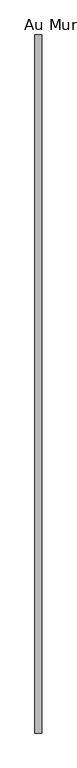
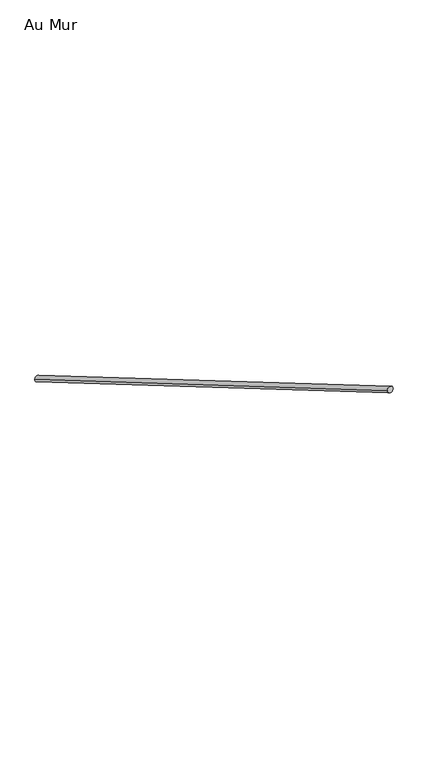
"""IFC4 building model written with IfcOpenShell, lengths in millimetres: railing geometry, Au Mur."""

from ifc_helpers import new_model, si_unit, frame, origin, place, context, project, spatial, ellipse_curve, source, transform, mapped, element, save
from ifc_brep_helpers import plane_surface, cylinder_surface, advanced_brep


def au_mur_0f0e8a53(model_context):
    return source(origin(), model_context, "Body", "AdvancedBrep", [
        advanced_brep(
        [(-17384.4938634, 15816.177026, 3360.3284046), (-17354.4938634, 15816.177026, 3360.3284046), (-17384.4938634, 12736.177026, 5168.8928942), (-17354.4938634, 12736.177026, 5168.8928942)],
        [
            (0, 1, ellipse_curve(frame((-17369.4938634, 15816.177026, 3360.3284046), z_axis=(0.0, 1.0, 0.0), x_axis=(0.0, 0.0, -1.0)), 17.3948233, 15.0)),
            (1, 0, ellipse_curve(frame((-17369.4938634, 15816.177026, 3360.3284046), z_axis=(0.0, 1.0, 0.0), x_axis=(0.0, 0.0, -1.0)), 17.3948233, 15.0)),
            (2, 3, ellipse_curve(frame((-17369.4938634, 12736.177026, 5168.8928942), z_axis=(0.0, -1.0, 0.0), x_axis=(0.0, 0.0, -1.0)), 17.3948233, 15.0)),
            (3, 2, ellipse_curve(frame((-17369.4938634, 12736.177026, 5168.8928942), z_axis=(0.0, -1.0, 0.0), x_axis=(0.0, 0.0, -1.0)), 17.3948233, 15.0)),
            (0, 2),
            (3, 1),
        ],
        [
            plane_surface(frame((-17369.4938634, 15816.177026, 3377.7232278), z_axis=(0.0, 1.0, 0.0), x_axis=(0.0, 0.0, -1.0))),
            plane_surface(frame((-17369.4938634, 12736.177026, 5186.2877175), z_axis=(0.0, -1.0, 0.0), x_axis=(0.0, 0.0, -1.0))),
            cylinder_surface(frame((-17369.4938634, 15808.5817111, 3364.7883451), z_axis=(0.0, 0.8623255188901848, -0.5063543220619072), x_axis=(1.0, 0.0, 0.0)), 15.0),
        ],
        [
            (0, [[1, 2]]),
            (1, [[3, 4]]),
            (2, [[-1, 5, -4, 6]]),
            (2, [[-2, -6, -3, -5]]),
        ],
    ),
    ])


if __name__ == "__main__":
    model = new_model("IFC4")
    model_context = context("Model", 3, world=origin())
    ifc_project = project(units=[si_unit("LENGTHUNIT", "METRE", prefix="MILLI")], contexts=[model_context])
    site = spatial("IfcSite", under=ifc_project)
    building = spatial("IfcBuilding", under=site)
    placement = place(None, origin())
    au_mur_shape = au_mur_0f0e8a53(model_context)
    element("IfcRailing", 1, ObjectType="Au Mur", at=placement, inside=building, context=model_context, shape_type="MappedRepresentation", body=[
        mapped(au_mur_shape, transform((0.0, 0.0, 0.0), x_axis=(1.0, 0.0, 0.0), y_axis=(0.0, 1.0, 0.0), z_axis=(0.0, 0.0, 1.0))),
    ])
    save(model, "model.ifc")
